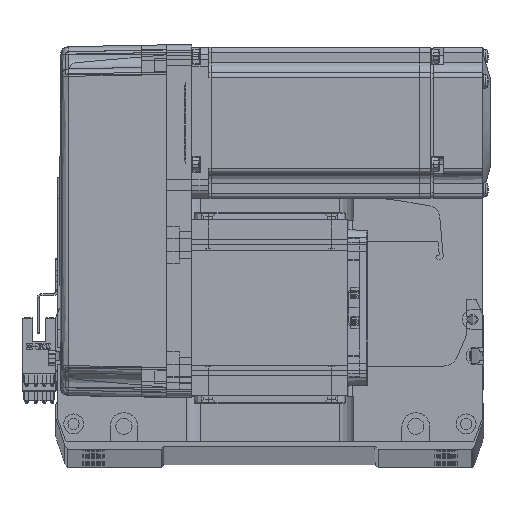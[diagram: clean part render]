
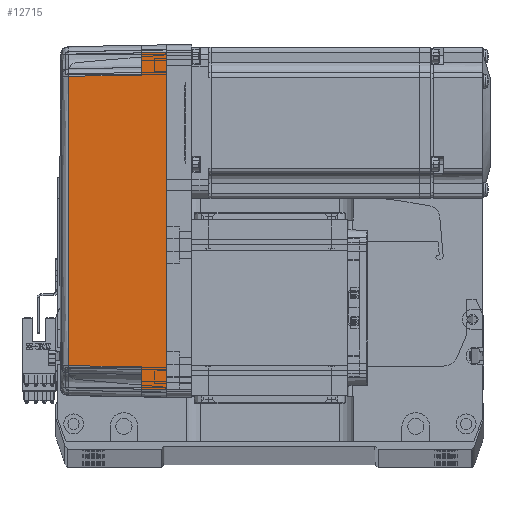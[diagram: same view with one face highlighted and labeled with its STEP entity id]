
A CAD part, top view. The second image highlights one B-rep face of the part: STEP entity #12715.
In plain terms, the highlighted planar face has unit normal (-0.018, 0, 1) as drawn and (0, 1, 0.017) by its records, which use the part's own axes.
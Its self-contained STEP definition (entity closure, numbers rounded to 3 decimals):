
#3185 = AXIS2_PLACEMENT_3D ( 'NONE', #74711, #46251, #5838 ) ;
#3751 = VERTEX_POINT ( 'NONE', #30916 ) ;
#5838 = DIRECTION ( 'NONE',  ( 0., -0.017, 1. ) ) ;
#5845 = DIRECTION ( 'NONE',  ( 0.017, -0.017, 1. ) ) ;
#5847 = EDGE_CURVE ( 'NONE', #57018, #7862, #38021, .T. ) ;
#6314 = VERTEX_POINT ( 'NONE', #33839 ) ;
#6812 = CARTESIAN_POINT ( 'NONE',  ( -57.495, 35.32, 38.985 ) ) ;
#7308 = CARTESIAN_POINT ( 'NONE',  ( 19.165, 35.316, 39.181 ) ) ;
#7862 = VERTEX_POINT ( 'NONE', #63301 ) ;
#9125 = DIRECTION ( 'NONE',  ( -0.017, -0.017, 1. ) ) ;
#9364 = VERTEX_POINT ( 'NONE', #29954 ) ;
#9379 = CARTESIAN_POINT ( 'NONE',  ( 67.001, 36.001, -0.052 ) ) ;
#9874 = CARTESIAN_POINT ( 'NONE',  ( 58., 35.825, 10. ) ) ;
#12715 = ADVANCED_FACE ( 'NONE', ( #71044 ), #58199, .T. ) ;
#12804 = CARTESIAN_POINT ( 'NONE',  ( -58., 35.825, 10. ) ) ;
#13129 = EDGE_CURVE ( 'NONE', #7862, #31243, #31751, .T. ) ;
#15318 = ORIENTED_EDGE ( 'NONE', *, *, #56299, .T. ) ;
#16201 = VECTOR ( 'NONE', #28384, 1000. ) ;
#18664 = ORIENTED_EDGE ( 'NONE', *, *, #35667, .F. ) ;
#20084 = ORIENTED_EDGE ( 'NONE', *, *, #53498, .F. ) ;
#21159 = LINE ( 'NONE', #9379, #29381 ) ;
#21197 = LINE ( 'NONE', #27573, #55969 ) ;
#23796 = DIRECTION ( 'NONE',  ( 0.017, -0.017, 1. ) ) ;
#26789 = ORIENTED_EDGE ( 'NONE', *, *, #30197, .T. ) ;
#27573 = CARTESIAN_POINT ( 'NONE',  ( 0., 36., 0. ) ) ;
#28384 = DIRECTION ( 'NONE',  ( 1., 0., 0. ) ) ;
#29381 = VECTOR ( 'NONE', #9125, 1000. ) ;
#29954 = CARTESIAN_POINT ( 'NONE',  ( 67., 36., 0. ) ) ;
#29964 = VECTOR ( 'NONE', #66561, 1000. ) ;
#30197 = EDGE_CURVE ( 'NONE', #63164, #3751, #51715, .T. ) ;
#30254 = CARTESIAN_POINT ( 'NONE',  ( -19.165, 35.316, 39.181 ) ) ;
#30916 = CARTESIAN_POINT ( 'NONE',  ( 57.495, 35.32, 38.985 ) ) ;
#31243 = VERTEX_POINT ( 'NONE', #34653 ) ;
#31751 = LINE ( 'NONE', #51663, #16201 ) ;
#33839 = CARTESIAN_POINT ( 'NONE',  ( 66.826, 35.825, 10. ) ) ;
#33894 = EDGE_CURVE ( 'NONE', #3751, #35693, #57388, .T. ) ;
#34653 = CARTESIAN_POINT ( 'NONE',  ( -58., 35.825, 10. ) ) ;
#35667 = EDGE_CURVE ( 'NONE', #9364, #6314, #21159, .T. ) ;
#35693 = VERTEX_POINT ( 'NONE', #9874 ) ;
#36631 = ORIENTED_EDGE ( 'NONE', *, *, #33894, .T. ) ;
#38021 = LINE ( 'NONE', #46730, #58092 ) ;
#38527 = CARTESIAN_POINT ( 'NONE',  ( 70., 35.825, 10. ) ) ;
#42163 = EDGE_LOOP ( 'NONE', ( #71601, #50276, #15318, #26789, #36631, #52681, #18664, #20084 ) ) ;
#46251 = DIRECTION ( 'NONE',  ( 0., 1., 0.017 ) ) ;
#46730 = CARTESIAN_POINT ( 'NONE',  ( -67., 36., 0. ) ) ;
#49787 = EDGE_CURVE ( 'NONE', #35693, #6314, #73827, .T. ) ;
#50276 = ORIENTED_EDGE ( 'NONE', *, *, #13129, .T. ) ;
#51099 = DIRECTION ( 'NONE',  ( 1., 0., 0. ) ) ;
#51663 = CARTESIAN_POINT ( 'NONE',  ( 70., 35.825, 10. ) ) ;
#51715 = B_SPLINE_CURVE_WITH_KNOTS ( 'NONE', 3,
 ( #6812, #30254, #7308, #54263 ),
 .UNSPECIFIED., .F., .F.,
 ( 4, 4 ),
 ( 0., 1. ),
 .UNSPECIFIED. ) ;
#52681 = ORIENTED_EDGE ( 'NONE', *, *, #49787, .T. ) ;
#53498 = EDGE_CURVE ( 'NONE', #57018, #9364, #21197, .T. ) ;
#54263 = CARTESIAN_POINT ( 'NONE',  ( 57.495, 35.32, 38.985 ) ) ;
#54476 = VECTOR ( 'NONE', #23796, 1000. ) ;
#55893 = CARTESIAN_POINT ( 'NONE',  ( -57.495, 35.32, 38.985 ) ) ;
#55969 = VECTOR ( 'NONE', #51099, 1000. ) ;
#56299 = EDGE_CURVE ( 'NONE', #31243, #63164, #59970, .T. ) ;
#57018 = VERTEX_POINT ( 'NONE', #67074 ) ;
#57388 = LINE ( 'NONE', #71629, #69215 ) ;
#58092 = VECTOR ( 'NONE', #5845, 1000. ) ;
#58199 = PLANE ( 'NONE',  #3185 ) ;
#59970 = LINE ( 'NONE', #12804, #54476 ) ;
#63164 = VERTEX_POINT ( 'NONE', #55893 ) ;
#63301 = CARTESIAN_POINT ( 'NONE',  ( -66.826, 35.825, 10. ) ) ;
#66042 = DIRECTION ( 'NONE',  ( 0.017, 0.017, -1. ) ) ;
#66561 = DIRECTION ( 'NONE',  ( 1., 0., 0. ) ) ;
#67074 = CARTESIAN_POINT ( 'NONE',  ( -67., 36., 0. ) ) ;
#69215 = VECTOR ( 'NONE', #66042, 1000. ) ;
#71044 = FACE_OUTER_BOUND ( 'NONE', #42163, .T. ) ;
#71601 = ORIENTED_EDGE ( 'NONE', *, *, #5847, .T. ) ;
#71629 = CARTESIAN_POINT ( 'NONE',  ( 57.495, 35.32, 38.985 ) ) ;
#73827 = LINE ( 'NONE', #38527, #29964 ) ;
#74711 = CARTESIAN_POINT ( 'NONE',  ( 70., 36., 0. ) ) ;
